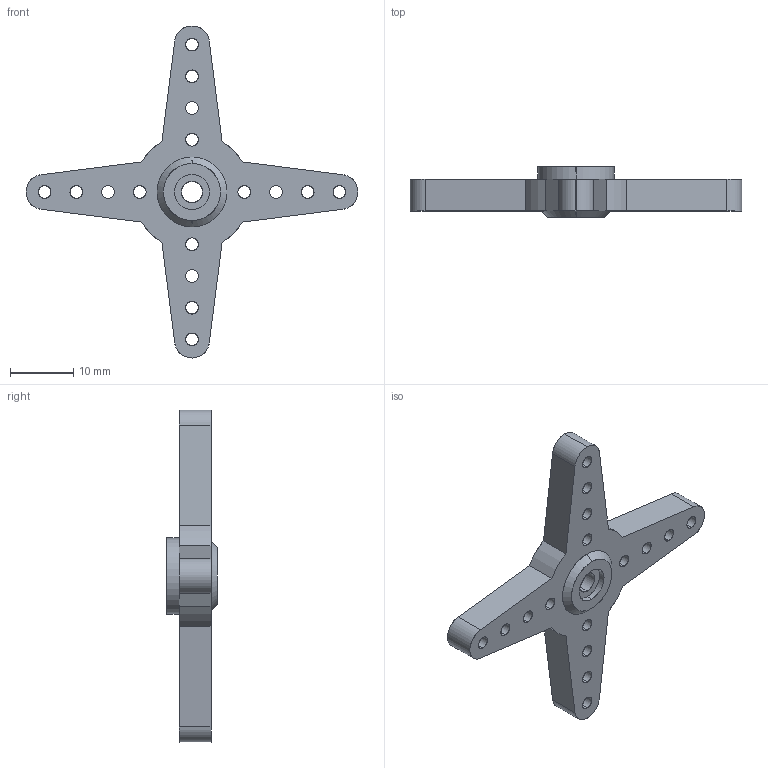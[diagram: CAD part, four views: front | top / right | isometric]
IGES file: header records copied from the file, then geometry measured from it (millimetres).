
Start section: SolidWorks IGES file using analytic representation for surfaces
Global section: file name: C:\Users\seb95\Mon projet\Technique\CAO\3D_import\DS51_Start_horn\DS51_Start_horn.IGS; native system: SolidWorks 2019; preprocessor: SolidWorks 2019; author: seb95; date: 230321.114209; units: millimetre
Bounding box: 52.37 x 8 x 52.37 mm (x, y, z)
Surface area: 3132.4 mm2 (no closed solid volume)
Topology: 0 solids, 0 shells, 159 faces, 2260 edges, 2260 vertices
Faces by surface type: bspline 86, revolution 73
